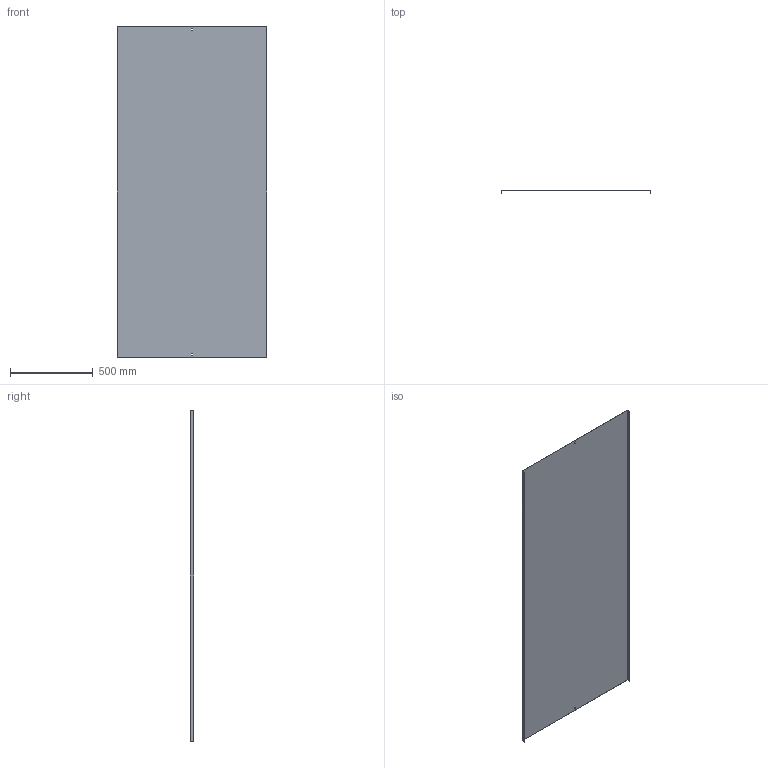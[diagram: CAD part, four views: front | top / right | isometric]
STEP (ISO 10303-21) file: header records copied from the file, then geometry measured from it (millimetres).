
FILE_DESCRIPTION (( 'STEP AP214' ), '1' );
FILE_NAME ('05N2R900.step', '2025-02-21T14:44:32', ( '' ), ( '' ), 'SwSTEP 2.0', 'SolidWorks 2023', '' );
FILE_SCHEMA (( 'AUTOMOTIVE_DESIGN' ));
Length unit declared in the file: millimetre
Products named in the file (1): 05N2R900
Bounding box: 903 x 20 x 2000 mm (x, y, z)
Volume: 2819824.5 mm3; surface area: 3768679 mm2
Topology: 1 solids, 1 shells, 18 faces, 48 edges, 32 vertices
Faces by surface type: plane 18
Entity records: 583 total; most frequent: CARTESIAN_POINT 99, ORIENTED_EDGE 96, DIRECTION 86, LINE 48, EDGE_CURVE 48, VECTOR 48, VERTEX_POINT 32, EDGE_LOOP 22
